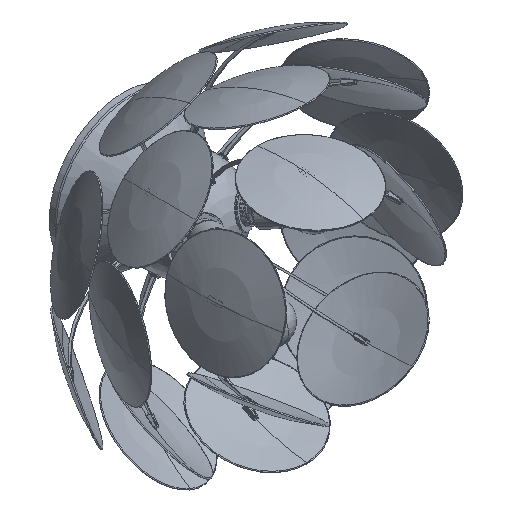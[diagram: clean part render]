
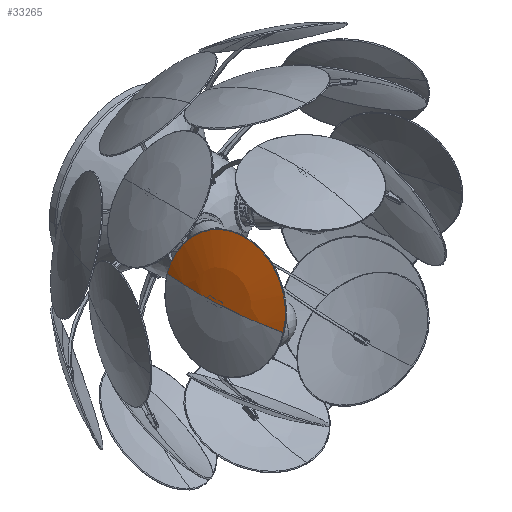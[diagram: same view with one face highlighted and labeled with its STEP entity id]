
A CAD part, isometric view. The second image highlights one B-rep face of the part: STEP entity #33265.
In plain terms, the highlighted spherical face has radius 411.63 mm.
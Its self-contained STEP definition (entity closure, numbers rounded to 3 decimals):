
#32703=CARTESIAN_POINT('',(0.,-398.13,0.));
#32704=DIRECTION('',(0.,0.,1.));
#32705=DIRECTION('',(0.235,0.972,0.));
#32706=AXIS2_PLACEMENT_3D('',#32703,#32704,#32705);
#32708=CARTESIAN_POINT('',(0.,-398.13,0.));
#32709=DIRECTION('',(0.,0.,-1.));
#32710=DIRECTION('',(-0.235,0.972,0.));
#32711=AXIS2_PLACEMENT_3D('',#32708,#32709,#32710);
#32713=CARTESIAN_POINT('',(0.,1.972,0.));
#32714=DIRECTION('',(0.,1.,0.));
#32715=DIRECTION('',(1.,0.,0.));
#32716=AXIS2_PLACEMENT_3D('',#32713,#32714,#32715);
#33166=CARTESIAN_POINT('',(96.735,1.972,
0.));
#33167=CARTESIAN_POINT('',(0.,13.5,0.));
#33168=VERTEX_POINT('',#33166);
#33169=VERTEX_POINT('',#33167);
#33172=CARTESIAN_POINT('',(-96.735,1.972,
0.));
#33173=VERTEX_POINT('',#33172);
#33254=CARTESIAN_POINT('',(0.,-398.13,0.));
#33255=DIRECTION('',(0.,-1.,0.));
#33256=DIRECTION('',(-1.,0.,0.));
#33257=AXIS2_PLACEMENT_3D('',#33254,#33255,#33256);
#33258=SPHERICAL_SURFACE('',#33257,411.63);
#33259=ORIENTED_EDGE('',*,*,#33245,.T.);
#33260=ORIENTED_EDGE('',*,*,#33249,.F.);
#33262=ORIENTED_EDGE('',*,*,#33261,.F.);
#33263=EDGE_LOOP('',(#33259,#33260,#33262));
#33264=FACE_OUTER_BOUND('',#33263,.F.);
#33265=ADVANCED_FACE('',(#33264),#33258,.T.);
#32707=CIRCLE('',#32706,411.63);
#32712=CIRCLE('',#32711,411.63);
#32717=CIRCLE('',#32716,96.735);
#33245=EDGE_CURVE('',#33168,#33169,#32707,.T.);
#33249=EDGE_CURVE('',#33173,#33169,#32712,.T.);
#33261=EDGE_CURVE('',#33168,#33173,#32717,.T.);
